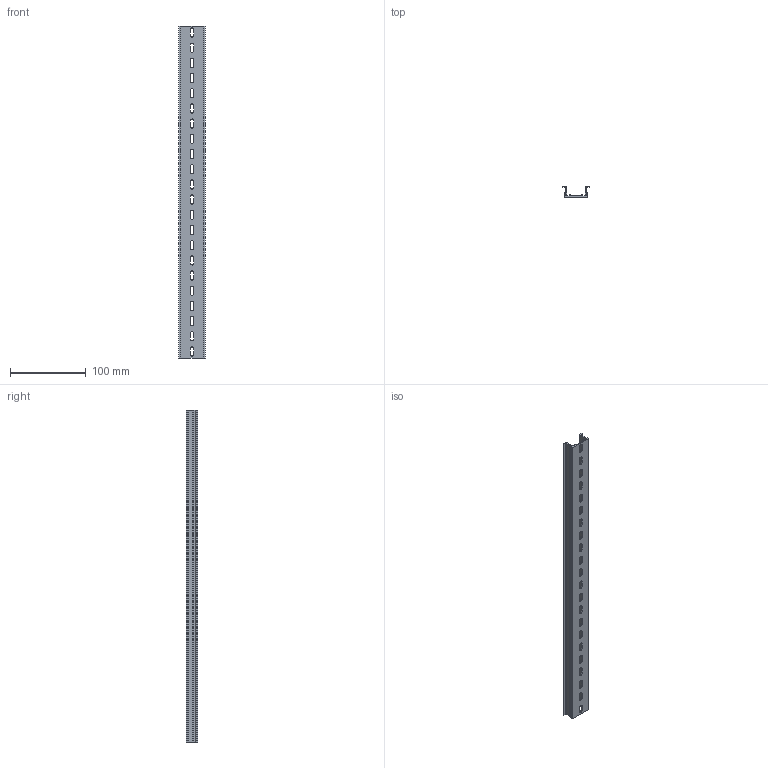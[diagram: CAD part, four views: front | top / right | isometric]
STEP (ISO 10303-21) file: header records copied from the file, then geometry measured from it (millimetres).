
FILE_DESCRIPTION(/* description */ (''),/* implementation_level */ '2;1');
FILE_NAME(/* name */ '22648-(TKB KD-22)HP 3D.stp',/* time_stamp */ '2024-12-05T14:04:03+09:00',/* author */ ('usercadg104'),/* organization */ (''),/* preprocessor_version */ 'ST-DEVELOPER v19.2',/* originating_system */ 'Autodesk Inventor 2023',/* authorisation */ '');
FILE_SCHEMA (('CONFIG_CONTROL_DESIGN'));
Length unit declared in the file: millimetre
Products named in the file (1): TKB KD-3(林)
Bounding box: 35 x 15 x 437 mm (x, y, z)
Volume: 51120.7 mm3; surface area: 59145.2 mm2
Topology: 1 solids, 1 shells, 128 faces, 378 edges, 252 vertices
Faces by surface type: plane 80, cylinder 48
Entity records: 4409 total; most frequent: CARTESIAN_POINT 759, ORIENTED_EDGE 756, DIRECTION 732, EDGE_CURVE 378, LINE 282, VECTOR 282, VERTEX_POINT 252, AXIS2_PLACEMENT_3D 225
